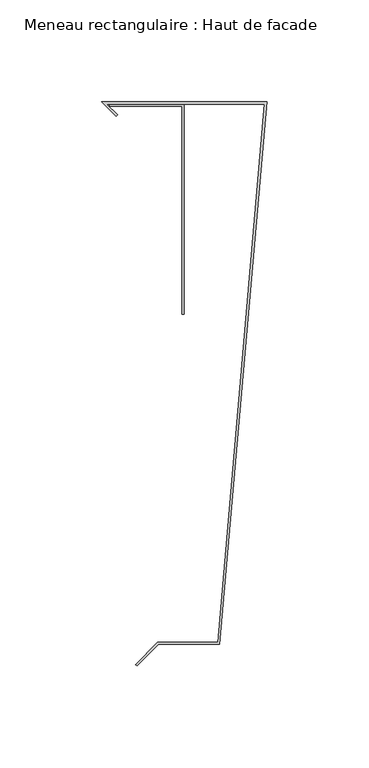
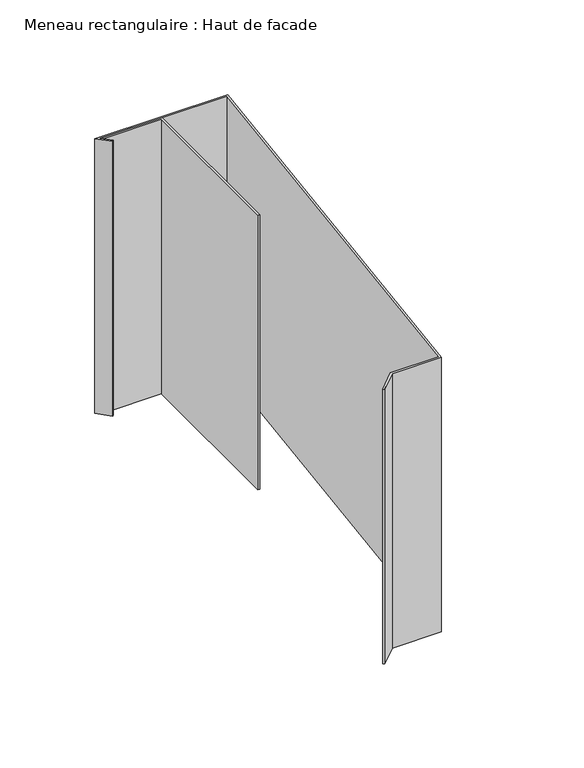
"""IFC4 building model written with IfcOpenShell, lengths in millimetres: member geometry, Meneau rectangulaire : Haut de facade."""

from ifc_helpers import new_model, si_unit, frame, origin, place, context, project, spatial, polyline, outline, extrude, source, transform, mapped, element, save


def meneau_rectangulaire_haut_de_facade_66ae83b7(model_context):
    return source(origin(), model_context, "Body", "SweptSolid", [
        extrude(outline(polyline([(-24.0647895, -160.703755), (-1.0913085, 103.2), (-78.5857864, 103.2), (-73.2218254, 97.836039), (-73.9289322, 97.1289322), (-81.0, 104.2), (0.0, 104.2), (-23.1484584, -161.703755), (-53.1484584, -161.703755), (-63.7550601, -172.3103567), (-64.4621669, -171.6032499), (-53.5626719, -160.703755), (-24.0647895, -160.703755)])), frame((0.0, 0.0, -177.0173445), z_axis=(0.0, 0.0, 1.0), x_axis=(1.0, 0.0, 0.0)), (0.0, 0.0, 1.0), 177.0173445),
        extrude(outline(polyline([(-40.5477541, 102.9846816), (-40.5477541, 0.0384227), (-41.5477541, 0.0384227), (-41.5477541, 101.9846816), (-77.0752814, 101.9846816), (-77.0752814, 102.9846816), (-40.5477541, 102.9846816)])), frame((0.0, 0.0, -177.0173445), z_axis=(0.0, 0.0, 1.0), x_axis=(1.0, 0.0, 0.0)), (0.0, 0.0, 1.0), 177.0173445),
    ])


if __name__ == "__main__":
    model = new_model("IFC4")
    model_context = context("Model", 3, world=origin())
    ifc_project = project(units=[si_unit("LENGTHUNIT", "METRE", prefix="MILLI")], contexts=[model_context])
    site = spatial("IfcSite", under=ifc_project)
    building = spatial("IfcBuilding", under=site)
    placement = place(None, origin())
    meneau_rectangulaire_haut_de_facade_shape = meneau_rectangulaire_haut_de_facade_66ae83b7(model_context)
    element("IfcMember", 1, ObjectType="Meneau rectangulaire : Haut de facade", at=placement, inside=building, context=model_context, shape_type="MappedRepresentation", body=[
        mapped(meneau_rectangulaire_haut_de_facade_shape, transform((0.0, 0.0, 0.0), x_axis=(1.0, 0.0, 0.0), y_axis=(0.0, 1.0, 0.0), z_axis=(0.0, 0.0, 1.0))),
    ])
    save(model, "model.ifc")
